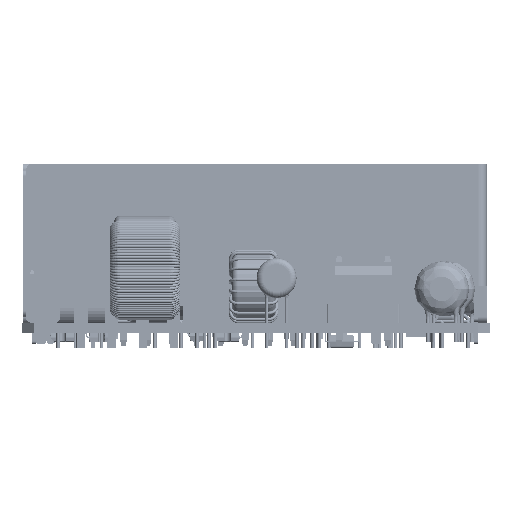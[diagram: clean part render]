
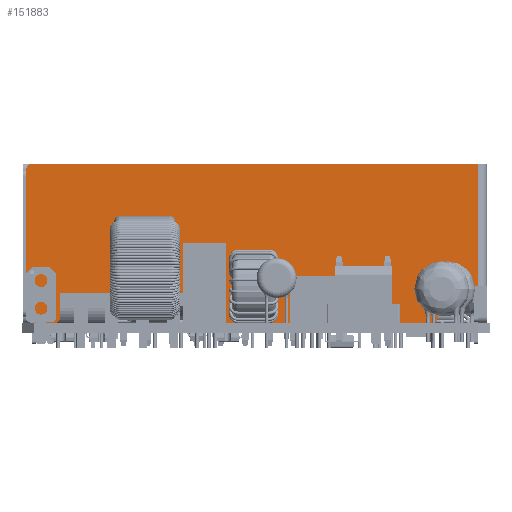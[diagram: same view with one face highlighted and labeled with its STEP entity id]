
A CAD part, left-side view. The second image highlights one B-rep face of the part: STEP entity #151883.
In plain terms, the highlighted planar face has unit normal (-1, 0, 0).
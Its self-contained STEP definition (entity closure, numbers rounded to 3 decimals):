
#151266=DIRECTION('',(0.,0.,-1.));
#151267=VECTOR('',#151266,72.5);
#151268=CARTESIAN_POINT('',(0.,26.,-1.5));
#151269=LINE('',#151268,#151267);
#151270=DIRECTION('',(0.,0.,1.));
#151271=VECTOR('',#151270,6.5);
#151272=CARTESIAN_POINT('',(0.,6.,-8.));
#151273=LINE('',#151272,#151271);
#151274=CARTESIAN_POINT('',(0.,1.,-9.));
#151275=DIRECTION('',(-1.,0.,0.));
#151276=DIRECTION('',(0.,-1.,0.));
#151277=AXIS2_PLACEMENT_3D('',#151274,#151275,#151276);
#151279=CARTESIAN_POINT('',(0.,1.,-46.5));
#151280=DIRECTION('',(-1.,0.,0.));
#151281=DIRECTION('',(0.,0.,-1.));
#151282=AXIS2_PLACEMENT_3D('',#151279,#151280,#151281);
#151284=DIRECTION('',(0.,-1.,0.));
#151285=VECTOR('',#151284,4.);
#151286=CARTESIAN_POINT('',(0.,5.,-47.5));
#151287=LINE('',#151286,#151285);
#151288=CARTESIAN_POINT('',(0.,1.,-70.5));
#151289=DIRECTION('',(-1.,0.,0.));
#151290=DIRECTION('',(0.,-1.,0.));
#151291=AXIS2_PLACEMENT_3D('',#151288,#151289,#151290);
#151293=CARTESIAN_POINT('',(0.,1.,-74.));
#151294=DIRECTION('',(-1.,0.,0.));
#151295=DIRECTION('',(0.,0.,-1.));
#151296=AXIS2_PLACEMENT_3D('',#151293,#151294,#151295);
#151298=DIRECTION('',(0.,-1.,0.));
#151299=VECTOR('',#151298,24.);
#151300=CARTESIAN_POINT('',(0.,25.,-75.));
#151301=LINE('',#151300,#151299);
#151302=CARTESIAN_POINT('',(0.,25.,-74.));
#151303=DIRECTION('',(-1.,0.,0.));
#151304=DIRECTION('',(0.,1.,0.));
#151305=AXIS2_PLACEMENT_3D('',#151302,#151303,#151304);
#151333=DIRECTION('',(0.,-1.,0.));
#151334=VECTOR('',#151333,20.);
#151335=CARTESIAN_POINT('',(0.,26.,-1.5));
#151336=LINE('',#151335,#151334);
#151479=DIRECTION('',(0.,0.,-1.));
#151480=VECTOR('',#151479,37.5);
#151481=CARTESIAN_POINT('',(0.,0.,-9.));
#151482=LINE('',#151481,#151480);
#151491=DIRECTION('',(0.,-1.,0.));
#151492=VECTOR('',#151491,5.);
#151493=CARTESIAN_POINT('',(0.,6.,-8.));
#151494=LINE('',#151493,#151492);
#151511=DIRECTION('',(0.,0.,-1.));
#151512=VECTOR('',#151511,22.);
#151513=CARTESIAN_POINT('',(0.,5.,-47.5));
#151514=LINE('',#151513,#151512);
#151519=DIRECTION('',(0.,-1.,0.));
#151520=VECTOR('',#151519,4.);
#151521=CARTESIAN_POINT('',(0.,5.,-69.5));
#151522=LINE('',#151521,#151520);
#151535=DIRECTION('',(0.,0.,-1.));
#151536=VECTOR('',#151535,3.5);
#151537=CARTESIAN_POINT('',(0.,0.,-70.5));
#151538=LINE('',#151537,#151536);
#151669=CARTESIAN_POINT('',(0.,26.,-1.5));
#151670=VERTEX_POINT('',#151669);
#151671=CARTESIAN_POINT('',(0.,6.,-1.5));
#151672=VERTEX_POINT('',#151671);
#151695=CARTESIAN_POINT('',(0.,26.,-74.));
#151696=VERTEX_POINT('',#151695);
#151697=CARTESIAN_POINT('',(0.,25.,-75.));
#151698=VERTEX_POINT('',#151697);
#151699=CARTESIAN_POINT('',(0.,1.,-75.));
#151700=VERTEX_POINT('',#151699);
#151701=CARTESIAN_POINT('',(0.,0.,-74.));
#151702=VERTEX_POINT('',#151701);
#151703=CARTESIAN_POINT('',(0.,0.,-70.5));
#151704=VERTEX_POINT('',#151703);
#151705=CARTESIAN_POINT('',(0.,1.,-69.5));
#151706=VERTEX_POINT('',#151705);
#151707=CARTESIAN_POINT('',(0.,5.,-69.5));
#151708=VERTEX_POINT('',#151707);
#151709=CARTESIAN_POINT('',(0.,5.,-47.5));
#151710=VERTEX_POINT('',#151709);
#151711=CARTESIAN_POINT('',(0.,1.,-47.5));
#151712=VERTEX_POINT('',#151711);
#151713=CARTESIAN_POINT('',(0.,0.,-46.5));
#151714=VERTEX_POINT('',#151713);
#151715=CARTESIAN_POINT('',(0.,0.,-9.));
#151716=VERTEX_POINT('',#151715);
#151717=CARTESIAN_POINT('',(0.,1.,-8.));
#151718=VERTEX_POINT('',#151717);
#151719=CARTESIAN_POINT('',(0.,6.,-8.));
#151720=VERTEX_POINT('',#151719);
#151847=CARTESIAN_POINT('',(0.,0.,-75.));
#151848=DIRECTION('',(-1.,0.,0.));
#151849=DIRECTION('',(0.,0.,-1.));
#151850=AXIS2_PLACEMENT_3D('',#151847,#151848,#151849);
#151851=PLANE('',#151850);
#151853=ORIENTED_EDGE('',*,*,#151852,.F.);
#151855=ORIENTED_EDGE('',*,*,#151854,.T.);
#151856=ORIENTED_EDGE('',*,*,#151835,.F.);
#151858=ORIENTED_EDGE('',*,*,#151857,.T.);
#151860=ORIENTED_EDGE('',*,*,#151859,.F.);
#151862=ORIENTED_EDGE('',*,*,#151861,.T.);
#151864=ORIENTED_EDGE('',*,*,#151863,.F.);
#151866=ORIENTED_EDGE('',*,*,#151865,.F.);
#151868=ORIENTED_EDGE('',*,*,#151867,.T.);
#151870=ORIENTED_EDGE('',*,*,#151869,.T.);
#151872=ORIENTED_EDGE('',*,*,#151871,.F.);
#151874=ORIENTED_EDGE('',*,*,#151873,.T.);
#151876=ORIENTED_EDGE('',*,*,#151875,.F.);
#151878=ORIENTED_EDGE('',*,*,#151877,.F.);
#151880=ORIENTED_EDGE('',*,*,#151879,.F.);
#151881=EDGE_LOOP('',(#151853,#151855,#151856,#151858,#151860,#151862,#151864,
#151866,#151868,#151870,#151872,#151874,#151876,#151878,#151880));
#151882=FACE_OUTER_BOUND('',#151881,.F.);
#151278=CIRCLE('',#151277,1.);
#151283=CIRCLE('',#151282,1.);
#151292=CIRCLE('',#151291,1.);
#151297=CIRCLE('',#151296,1.);
#151306=CIRCLE('',#151305,1.);
#151835=EDGE_CURVE('',#151720,#151672,#151273,.T.);
#151852=EDGE_CURVE('',#151670,#151696,#151269,.T.);
#151854=EDGE_CURVE('',#151670,#151672,#151336,.T.);
#151857=EDGE_CURVE('',#151720,#151718,#151494,.T.);
#151859=EDGE_CURVE('',#151716,#151718,#151278,.T.);
#151861=EDGE_CURVE('',#151716,#151714,#151482,.T.);
#151863=EDGE_CURVE('',#151712,#151714,#151283,.T.);
#151865=EDGE_CURVE('',#151710,#151712,#151287,.T.);
#151867=EDGE_CURVE('',#151710,#151708,#151514,.T.);
#151869=EDGE_CURVE('',#151708,#151706,#151522,.T.);
#151871=EDGE_CURVE('',#151704,#151706,#151292,.T.);
#151873=EDGE_CURVE('',#151704,#151702,#151538,.T.);
#151875=EDGE_CURVE('',#151700,#151702,#151297,.T.);
#151877=EDGE_CURVE('',#151698,#151700,#151301,.T.);
#151879=EDGE_CURVE('',#151696,#151698,#151306,.T.);
#151883=ADVANCED_FACE('',(#151882),#151851,.T.);
